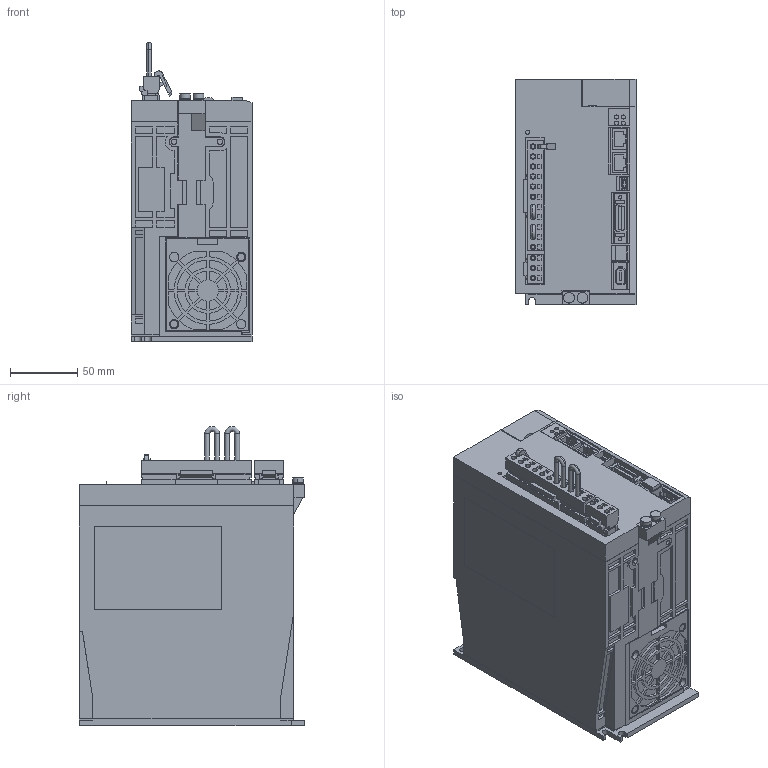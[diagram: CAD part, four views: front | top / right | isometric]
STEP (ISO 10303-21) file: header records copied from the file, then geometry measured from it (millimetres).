
FILE_DESCRIPTION (( 'STEP AP203' ), '1' );
FILE_NAME ('sgd7s_120aa0a.STEP', '2015-01-21T01:13:07', ( '匠エンジニアリング山之内' ), ( 'TAKUMI-Engniaring' ), 'SwSTEP 2.0', 'SolidWorks 2006303', '' );
FILE_SCHEMA (( 'CONFIG_CONTROL_DESIGN' ));
Products named in the file (11): sgd7s_120aa0a_connector; sgd7s_120aa0a_cover2; sgd7s_120aa0a_connector_3; sgd7s_120aa0a; sgd7s_120aa0a_base; sgd7s_120aa0a_connector_2; sgd7s_120aa0a_pin; sgd7s_120aa0a_cable; sgd7s_120aa0a_connector_1; sgd7s_120aa0a_cover; sgd7s_120aa0a_cover3
Assembly tree (12 placements, depth 3):
  sgd7s_120aa0a
    sgd7s_120aa0a_connector
      sgd7s_120aa0a_connector_2
      sgd7s_120aa0a_cable  x2
      sgd7s_120aa0a_pin
    sgd7s_120aa0a_connector_1
    sgd7s_120aa0a_cover2  x2
    sgd7s_120aa0a_cover
    sgd7s_120aa0a_connector_3
    sgd7s_120aa0a_base
    sgd7s_120aa0a_cover3
Bounding box: 90.5 x 168 x 223 mm (x, y, z)
Volume: 2548947.1 mm3; surface area: 172982.1 mm2
Topology: 11 solids, 11 shells, 1982 faces, 5137 edges, 3394 vertices
Faces by surface type: plane 1741, cylinder 236, torus 4, sphere 1
Entity records: 59860 total; most frequent: CARTESIAN_POINT 10362, ORIENTED_EDGE 10114, DIRECTION 9447, EDGE_CURVE 5057, LINE 4593, VECTOR 4593, VERTEX_POINT 3342, AXIS2_PLACEMENT_3D 2427
